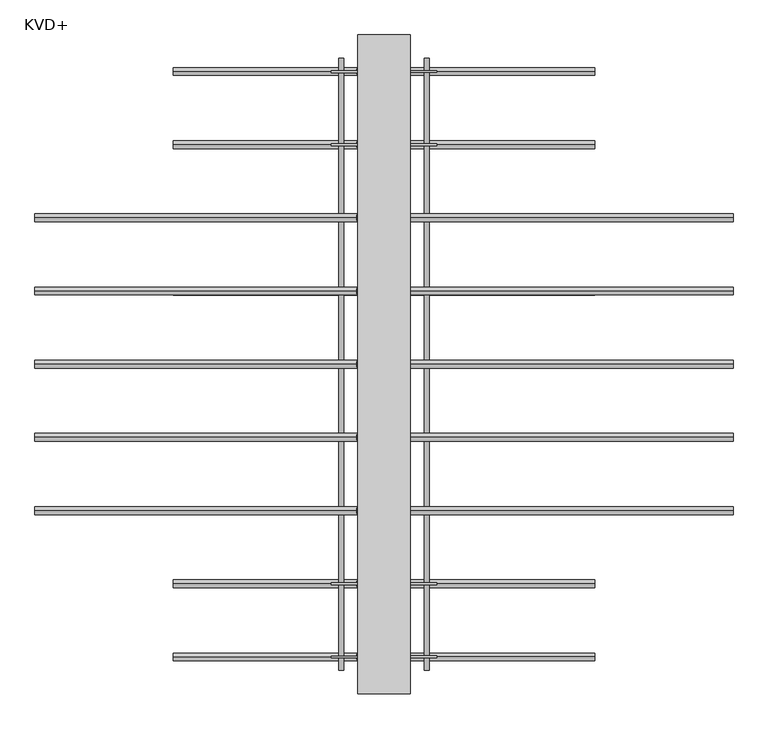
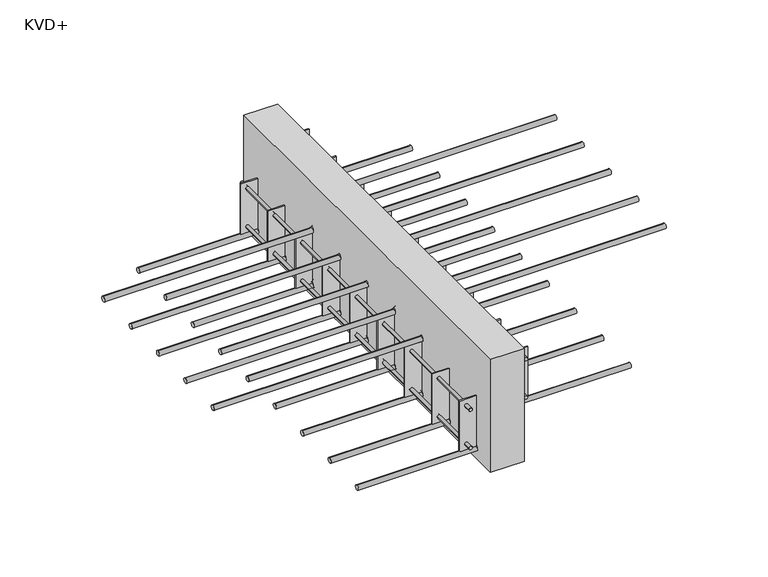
"""IFC4 building model written with IfcOpenShell, lengths in millimetres: proxy geometry, ACINOXplus_Typenreihe_KV : KVD+."""

from ifc_helpers import new_model, si_unit, point, frame, frame_2d, origin, place, context, project, spatial, polyline, circle_curve, ellipse_curve, trimmed, segment, composite_curve, outline, extrude, source, transform, mapped, element, save
from ifc_brep_helpers import plane_surface, cylinder_surface, advanced_brep


def kvd_56752be9(model_context):
    return source(origin(), model_context, "Body", "SolidModel", [
        extrude(outline(polyline([(40.0, 500.0), (40.0, -500.0), (-40.0, -500.0), (-40.0, 500.0), (40.0, 500.0)])), frame((0.0, 0.0, -200.0), z_axis=(0.0, 0.0, 1.0), x_axis=(1.0, 0.0, 0.0)), (0.0, 0.0, 1.0), 280.0),
        extrude(outline(polyline([(-42.0, -40.0), (-42.0, -80.0), (-167.0, -80.0), (-167.0, -40.0), (-87.0, 40.0), (-87.0, 80.0), (38.0, 80.0), (38.0, 40.0), (-42.0, -40.0)])), frame((0.0, 331.8333333, 0.0), z_axis=(0.0, 1.0, 0.0), x_axis=(0.0, 0.0, 1.0)), (0.0, 0.0, 1.0), 3.0),
        extrude(outline(polyline([(-42.0, -40.0), (-42.0, -80.0), (-167.0, -80.0), (-167.0, -40.0), (-87.0, 40.0), (-87.0, 80.0), (38.0, 80.0), (38.0, 40.0), (-42.0, -40.0)])), frame((0.0, 220.7222222, 0.0), z_axis=(0.0, 1.0, 0.0), x_axis=(0.0, 0.0, 1.0)), (0.0, 0.0, 1.0), 3.0),
        extrude(outline(polyline([(-42.0, -40.0), (-42.0, -80.0), (-167.0, -80.0), (-167.0, -40.0), (-87.0, 40.0), (-87.0, 80.0), (38.0, 80.0), (38.0, 40.0), (-42.0, -40.0)])), frame((0.0, 109.6111111, 0.0), z_axis=(0.0, 1.0, 0.0), x_axis=(0.0, 0.0, 1.0)), (0.0, 0.0, 1.0), 3.0),
        extrude(outline(polyline([(-42.0, -40.0), (-42.0, -80.0), (-167.0, -80.0), (-167.0, -40.0), (-87.0, 40.0), (-87.0, 80.0), (38.0, 80.0), (38.0, 40.0), (-42.0, -40.0)])), frame((0.0, -1.5, 0.0), z_axis=(0.0, 1.0, 0.0), x_axis=(0.0, 0.0, 1.0)), (0.0, 0.0, 1.0), 3.0),
        extrude(outline(polyline([(-42.0, -40.0), (-42.0, -80.0), (-167.0, -80.0), (-167.0, -40.0), (-87.0, 40.0), (-87.0, 80.0), (38.0, 80.0), (38.0, 40.0), (-42.0, -40.0)])), frame((0.0, -112.6111111, 0.0), z_axis=(0.0, 1.0, 0.0), x_axis=(0.0, 0.0, 1.0)), (0.0, 0.0, 1.0), 3.0),
        extrude(outline(polyline([(-42.0, -40.0), (-42.0, -80.0), (-167.0, -80.0), (-167.0, -40.0), (-87.0, 40.0), (-87.0, 80.0), (38.0, 80.0), (38.0, 40.0), (-42.0, -40.0)])), frame((0.0, -223.7222222, 0.0), z_axis=(0.0, 1.0, 0.0), x_axis=(0.0, 0.0, 1.0)), (0.0, 0.0, 1.0), 3.0),
        extrude(outline(polyline([(-42.0, -40.0), (-42.0, -80.0), (-167.0, -80.0), (-167.0, -40.0), (-87.0, 40.0), (-87.0, 80.0), (38.0, 80.0), (38.0, 40.0), (-42.0, -40.0)])), frame((0.0, -334.8333333, 0.0), z_axis=(0.0, 1.0, 0.0), x_axis=(0.0, 0.0, 1.0)), (0.0, 0.0, 1.0), 3.0),
        extrude(outline(polyline([(-42.0, -40.0), (-42.0, -80.0), (-167.0, -80.0), (-167.0, -40.0), (-87.0, 40.0), (-87.0, 80.0), (38.0, 80.0), (38.0, 40.0), (-42.0, -40.0)])), frame((0.0, 442.9444444, 0.0), z_axis=(0.0, 1.0, 0.0), x_axis=(0.0, 0.0, 1.0)), (0.0, 0.0, 1.0), 3.0),
        extrude(outline(polyline([(-42.0, -40.0), (-42.0, -80.0), (-167.0, -80.0), (-167.0, -40.0), (-87.0, 40.0), (-87.0, 80.0), (38.0, 80.0), (38.0, 40.0), (-42.0, -40.0)])), frame((0.0, -445.9444444, 0.0), z_axis=(0.0, 1.0, 0.0), x_axis=(0.0, 0.0, 1.0)), (0.0, 0.0, 1.0), 3.0),
        extrude(outline(composite_curve([segment(trimmed(circle_curve(frame_2d((-152.0, -65.0)), 4.0), [point((-152.0, -69.0))], [point((-152.0, -61.0))], False, "CARTESIAN"), True, "CONTINUOUS"), segment(trimmed(circle_curve(frame_2d((-152.0, -65.0)), 4.0), [point((-152.0, -61.0))], [point((-152.0, -69.0))], False, "CARTESIAN"), True, "CONTINUOUS")], self_intersect=False)), frame((0.0, 445.9444444, 0.0), z_axis=(0.0, 1.0, 0.0), x_axis=(0.0, 0.0, 1.0)), (0.0, 0.0, 1.0), 18.5),
        extrude(outline(composite_curve([segment(trimmed(circle_curve(frame_2d((-152.0, -65.0)), 4.0), [point((-152.0, -61.0))], [point((-152.0, -69.0))], False, "CARTESIAN"), True, "CONTINUOUS"), segment(trimmed(circle_curve(frame_2d((-152.0, -65.0)), 4.0), [point((-152.0, -69.0))], [point((-152.0, -61.0))], False, "CARTESIAN"), True, "CONTINUOUS")], self_intersect=False)), frame((0.0, -464.4444444, 0.0), z_axis=(0.0, 1.0, 0.0), x_axis=(0.0, 0.0, 1.0)), (0.0, 0.0, 1.0), 18.5),
        extrude(outline(composite_curve([segment(trimmed(circle_curve(frame_2d((-152.0, -65.0)), 4.0), [point((-152.0, -69.0))], [point((-152.0, -61.0))], False, "CARTESIAN"), True, "CONTINUOUS"), segment(trimmed(circle_curve(frame_2d((-152.0, -65.0)), 4.0), [point((-152.0, -61.0))], [point((-152.0, -69.0))], False, "CARTESIAN"), True, "CONTINUOUS")], self_intersect=False)), frame((0.0, -442.9444444, 0.0), z_axis=(0.0, 1.0, 0.0), x_axis=(0.0, 0.0, 1.0)), (0.0, 0.0, 1.0), 108.1111111),
        extrude(outline(composite_curve([segment(trimmed(circle_curve(frame_2d((-152.0, -65.0)), 4.0), [point((-152.0, -69.0))], [point((-152.0, -61.0))], False, "CARTESIAN"), True, "CONTINUOUS"), segment(trimmed(circle_curve(frame_2d((-152.0, -65.0)), 4.0), [point((-152.0, -61.0))], [point((-152.0, -69.0))], False, "CARTESIAN"), True, "CONTINUOUS")], self_intersect=False)), frame((0.0, -331.8333333, 0.0), z_axis=(0.0, 1.0, 0.0), x_axis=(0.0, 0.0, 1.0)), (0.0, 0.0, 1.0), 774.7777778),
        extrude(outline(composite_curve([segment(trimmed(circle_curve(frame_2d((-72.0, 65.0)), 4.0), [point((-72.0, 61.0))], [point((-72.0, 69.0))], False, "CARTESIAN"), True, "CONTINUOUS"), segment(trimmed(circle_curve(frame_2d((-72.0, 65.0)), 4.0), [point((-72.0, 69.0))], [point((-72.0, 61.0))], False, "CARTESIAN"), True, "CONTINUOUS")], self_intersect=False)), frame((0.0, 445.9444444, 0.0), z_axis=(0.0, 1.0, 0.0), x_axis=(0.0, 0.0, 1.0)), (0.0, 0.0, 1.0), 18.5),
        extrude(outline(composite_curve([segment(trimmed(circle_curve(frame_2d((-72.0, 65.0)), 4.0), [point((-72.0, 69.0))], [point((-72.0, 61.0))], False, "CARTESIAN"), True, "CONTINUOUS"), segment(trimmed(circle_curve(frame_2d((-72.0, 65.0)), 4.0), [point((-72.0, 61.0))], [point((-72.0, 69.0))], False, "CARTESIAN"), True, "CONTINUOUS")], self_intersect=False)), frame((0.0, -464.4444444, 0.0), z_axis=(0.0, 1.0, 0.0), x_axis=(0.0, 0.0, 1.0)), (0.0, 0.0, 1.0), 18.5),
        extrude(outline(composite_curve([segment(trimmed(circle_curve(frame_2d((-72.0, 65.0)), 4.0), [point((-72.0, 61.0))], [point((-72.0, 69.0))], False, "CARTESIAN"), True, "CONTINUOUS"), segment(trimmed(circle_curve(frame_2d((-72.0, 65.0)), 4.0), [point((-72.0, 69.0))], [point((-72.0, 61.0))], False, "CARTESIAN"), True, "CONTINUOUS")], self_intersect=False)), frame((0.0, -331.8333333, 0.0), z_axis=(0.0, 1.0, 0.0), x_axis=(0.0, 0.0, 1.0)), (0.0, 0.0, 1.0), 774.7777778),
        extrude(outline(composite_curve([segment(trimmed(circle_curve(frame_2d((-72.0, 65.0)), 4.0), [point((-72.0, 61.0))], [point((-72.0, 69.0))], False, "CARTESIAN"), True, "CONTINUOUS"), segment(trimmed(circle_curve(frame_2d((-72.0, 65.0)), 4.0), [point((-72.0, 69.0))], [point((-72.0, 61.0))], False, "CARTESIAN"), True, "CONTINUOUS")], self_intersect=False)), frame((0.0, -442.9444444, 0.0), z_axis=(0.0, 1.0, 0.0), x_axis=(0.0, 0.0, 1.0)), (0.0, 0.0, 1.0), 108.1111111),
        extrude(outline(composite_curve([segment(trimmed(circle_curve(frame_2d((-57.0, -65.0)), 4.0), [point((-57.0, -69.0))], [point((-57.0, -61.0))], False, "CARTESIAN"), True, "CONTINUOUS"), segment(trimmed(circle_curve(frame_2d((-57.0, -65.0)), 4.0), [point((-57.0, -61.0))], [point((-57.0, -69.0))], False, "CARTESIAN"), True, "CONTINUOUS")], self_intersect=False)), frame((0.0, 445.9444444, 0.0), z_axis=(0.0, 1.0, 0.0), x_axis=(0.0, 0.0, 1.0)), (0.0, 0.0, 1.0), 18.5),
        extrude(outline(composite_curve([segment(trimmed(circle_curve(frame_2d((-57.0, -65.0)), 4.0), [point((-57.0, -61.0))], [point((-57.0, -69.0))], False, "CARTESIAN"), True, "CONTINUOUS"), segment(trimmed(circle_curve(frame_2d((-57.0, -65.0)), 4.0), [point((-57.0, -69.0))], [point((-57.0, -61.0))], False, "CARTESIAN"), True, "CONTINUOUS")], self_intersect=False)), frame((0.0, -464.4444444, 0.0), z_axis=(0.0, 1.0, 0.0), x_axis=(0.0, 0.0, 1.0)), (0.0, 0.0, 1.0), 18.5),
        extrude(outline(composite_curve([segment(trimmed(circle_curve(frame_2d((-57.0, -65.0)), 4.0), [point((-57.0, -69.0))], [point((-57.0, -61.0))], False, "CARTESIAN"), True, "CONTINUOUS"), segment(trimmed(circle_curve(frame_2d((-57.0, -65.0)), 4.0), [point((-57.0, -61.0))], [point((-57.0, -69.0))], False, "CARTESIAN"), True, "CONTINUOUS")], self_intersect=False)), frame((0.0, -442.9444444, 0.0), z_axis=(0.0, 1.0, 0.0), x_axis=(0.0, 0.0, 1.0)), (0.0, 0.0, 1.0), 108.1111111),
        extrude(outline(composite_curve([segment(trimmed(circle_curve(frame_2d((-57.0, -65.0)), 4.0), [point((-57.0, -69.0))], [point((-57.0, -61.0))], False, "CARTESIAN"), True, "CONTINUOUS"), segment(trimmed(circle_curve(frame_2d((-57.0, -65.0)), 4.0), [point((-57.0, -61.0))], [point((-57.0, -69.0))], False, "CARTESIAN"), True, "CONTINUOUS")], self_intersect=False)), frame((0.0, -331.8333333, 0.0), z_axis=(0.0, 1.0, 0.0), x_axis=(0.0, 0.0, 1.0)), (0.0, 0.0, 1.0), 774.7777778),
        extrude(outline(composite_curve([segment(trimmed(circle_curve(frame_2d((23.0, 65.0)), 4.0), [point((23.0, 61.0))], [point((23.0, 69.0))], False, "CARTESIAN"), True, "CONTINUOUS"), segment(trimmed(circle_curve(frame_2d((23.0, 65.0)), 4.0), [point((23.0, 69.0))], [point((23.0, 61.0))], False, "CARTESIAN"), True, "CONTINUOUS")], self_intersect=False)), frame((0.0, 445.9444444, 0.0), z_axis=(0.0, 1.0, 0.0), x_axis=(0.0, 0.0, 1.0)), (0.0, 0.0, 1.0), 18.5),
        extrude(outline(composite_curve([segment(trimmed(circle_curve(frame_2d((23.0, 65.0)), 4.0), [point((23.0, 69.0))], [point((23.0, 61.0))], False, "CARTESIAN"), True, "CONTINUOUS"), segment(trimmed(circle_curve(frame_2d((23.0, 65.0)), 4.0), [point((23.0, 61.0))], [point((23.0, 69.0))], False, "CARTESIAN"), True, "CONTINUOUS")], self_intersect=False)), frame((0.0, -464.4444444, 0.0), z_axis=(0.0, 1.0, 0.0), x_axis=(0.0, 0.0, 1.0)), (0.0, 0.0, 1.0), 18.5),
        extrude(outline(composite_curve([segment(trimmed(circle_curve(frame_2d((23.0, 65.0)), 4.0), [point((23.0, 61.0))], [point((23.0, 69.0))], False, "CARTESIAN"), True, "CONTINUOUS"), segment(trimmed(circle_curve(frame_2d((23.0, 65.0)), 4.0), [point((23.0, 69.0))], [point((23.0, 61.0))], False, "CARTESIAN"), True, "CONTINUOUS")], self_intersect=False)), frame((0.0, -331.8333333, 0.0), z_axis=(0.0, 1.0, 0.0), x_axis=(0.0, 0.0, 1.0)), (0.0, 0.0, 1.0), 774.7777778),
        extrude(outline(composite_curve([segment(trimmed(circle_curve(frame_2d((23.0, 65.0)), 4.0), [point((23.0, 61.0))], [point((23.0, 69.0))], False, "CARTESIAN"), True, "CONTINUOUS"), segment(trimmed(circle_curve(frame_2d((23.0, 65.0)), 4.0), [point((23.0, 69.0))], [point((23.0, 61.0))], False, "CARTESIAN"), True, "CONTINUOUS")], self_intersect=False)), frame((0.0, -442.9444444, 0.0), z_axis=(0.0, 1.0, 0.0), x_axis=(0.0, 0.0, 1.0)), (0.0, 0.0, 1.0), 108.1111111),
        advanced_brep(
        [(-320.0, 222.2222222, -179.0), (-320.0, 222.2222222, -167.0), (-37.5147186, 222.2222222, -179.0), (-42.4852814, 222.2222222, -167.0), (42.4852814, 222.2222222, -99.0), (37.5147186, 222.2222222, -87.0), (320.0, 222.2222222, -99.0), (320.0, 222.2222222, -87.0)],
        [
            (0, 1, circle_curve(frame((-320.0, 222.2222222, -173.0), z_axis=(-1.0, 0.0, 0.0), x_axis=(0.0, 0.0, 1.0)), 6.0)),
            (1, 0, circle_curve(frame((-320.0, 222.2222222, -173.0), z_axis=(-1.0, 0.0, 0.0), x_axis=(0.0, 0.0, 1.0)), 6.0)),
            (0, 2),
            (2, 3, ellipse_curve(frame((-40.0, 222.2222222, -173.0), z_axis=(-0.9238795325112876, 0.0, -0.382683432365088), x_axis=(-0.3826834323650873, 0.0, 0.923879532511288)), 6.4943532, 6.0)),
            (3, 1),
            (3, 2, ellipse_curve(frame((-40.0, 222.2222222, -173.0), z_axis=(-0.9238795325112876, 0.0, -0.382683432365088), x_axis=(-0.3826834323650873, 0.0, 0.923879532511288)), 6.4943532, 6.0)),
            (2, 4),
            (4, 5, ellipse_curve(frame((40.0, 222.2222222, -93.0), z_axis=(-0.9238795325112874, 0.0, -0.382683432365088), x_axis=(0.3826834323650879, 0.0, -0.9238795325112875)), 6.4943532, 6.0)),
            (5, 3),
            (5, 4, ellipse_curve(frame((40.0, 222.2222222, -93.0), z_axis=(-0.9238795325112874, 0.0, -0.382683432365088), x_axis=(0.3826834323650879, 0.0, -0.9238795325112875)), 6.4943532, 6.0)),
            (6, 7, circle_curve(frame((320.0, 222.2222222, -93.0), z_axis=(1.0, 0.0, 0.0), x_axis=(0.0, 0.0, 1.0)), 6.0)),
            (7, 6, circle_curve(frame((320.0, 222.2222222, -93.0), z_axis=(1.0, 0.0, 0.0), x_axis=(0.0, 0.0, 1.0)), 6.0)),
            (4, 6),
            (7, 5),
        ],
        [
            plane_surface(frame((-320.0, 222.2222222, -173.0), z_axis=(-1.0, 0.0, 0.0), x_axis=(0.0, -1.0, 0.0))),
            cylinder_surface(frame((-320.0, 222.2222222, -173.0), z_axis=(-1.0, 0.0, 0.0), x_axis=(0.0, 0.0, 1.0)), 6.0),
            cylinder_surface(frame((-40.0, 222.2222222, -173.0), z_axis=(-0.707106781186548, 0.0, -0.707106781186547), x_axis=(-0.707106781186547, 0.0, 0.707106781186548)), 6.0),
            plane_surface(frame((320.0, 222.2222222, -93.0), z_axis=(1.0, 0.0, 0.0), x_axis=(0.0, -1.0, 0.0))),
            cylinder_surface(frame((40.0, 222.2222222, -93.0), z_axis=(-1.0, 0.0, 0.0), x_axis=(0.0, 0.0, 1.0)), 6.0),
        ],
        [
            (0, [[1, 2]]),
            (1, [[-1, 3, 4, 5]]),
            (1, [[-2, -5, 6, -3]]),
            (2, [[-4, 7, 8, 9]]),
            (2, [[-6, -9, 10, -7]]),
            (3, [[11, 12]]),
            (4, [[-8, 13, -12, 14]]),
            (4, [[-10, -14, -11, -13]]),
        ],
    ),
        advanced_brep(
        [(-320.0, 111.1111111, -179.0), (-320.0, 111.1111111, -167.0), (-37.5147186, 111.1111111, -179.0), (-42.4852814, 111.1111111, -167.0), (42.4852814, 111.1111111, -99.0), (37.5147186, 111.1111111, -87.0), (320.0, 111.1111111, -99.0), (320.0, 111.1111111, -87.0)],
        [
            (0, 1, circle_curve(frame((-320.0, 111.1111111, -173.0), z_axis=(-1.0, 0.0, 0.0), x_axis=(0.0, 0.0, 1.0)), 6.0)),
            (1, 0, circle_curve(frame((-320.0, 111.1111111, -173.0), z_axis=(-1.0, 0.0, 0.0), x_axis=(0.0, 0.0, 1.0)), 6.0)),
            (0, 2),
            (2, 3, ellipse_curve(frame((-40.0, 111.1111111, -173.0), z_axis=(-0.9238795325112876, 0.0, -0.382683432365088), x_axis=(-0.3826834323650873, 0.0, 0.923879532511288)), 6.4943532, 6.0)),
            (3, 1),
            (3, 2, ellipse_curve(frame((-40.0, 111.1111111, -173.0), z_axis=(-0.9238795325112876, 0.0, -0.382683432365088), x_axis=(-0.3826834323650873, 0.0, 0.923879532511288)), 6.4943532, 6.0)),
            (2, 4),
            (4, 5, ellipse_curve(frame((40.0, 111.1111111, -93.0), z_axis=(-0.9238795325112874, 0.0, -0.382683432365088), x_axis=(0.3826834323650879, 0.0, -0.9238795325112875)), 6.4943532, 6.0)),
            (5, 3),
            (5, 4, ellipse_curve(frame((40.0, 111.1111111, -93.0), z_axis=(-0.9238795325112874, 0.0, -0.382683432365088), x_axis=(0.3826834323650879, 0.0, -0.9238795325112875)), 6.4943532, 6.0)),
            (6, 7, circle_curve(frame((320.0, 111.1111111, -93.0), z_axis=(1.0, 0.0, 0.0), x_axis=(0.0, 0.0, 1.0)), 6.0)),
            (7, 6, circle_curve(frame((320.0, 111.1111111, -93.0), z_axis=(1.0, 0.0, 0.0), x_axis=(0.0, 0.0, 1.0)), 6.0)),
            (4, 6),
            (7, 5),
        ],
        [
            plane_surface(frame((-320.0, 111.1111111, -173.0), z_axis=(-1.0, 0.0, 0.0), x_axis=(0.0, -1.0, 0.0))),
            cylinder_surface(frame((-320.0, 111.1111111, -173.0), z_axis=(-1.0, 0.0, 0.0), x_axis=(0.0, 0.0, 1.0)), 6.0),
            cylinder_surface(frame((-40.0, 111.1111111, -173.0), z_axis=(-0.707106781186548, 0.0, -0.707106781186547), x_axis=(-0.707106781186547, 0.0, 0.707106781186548)), 6.0),
            plane_surface(frame((320.0, 111.1111111, -93.0), z_axis=(1.0, 0.0, 0.0), x_axis=(0.0, -1.0, 0.0))),
            cylinder_surface(frame((40.0, 111.1111111, -93.0), z_axis=(-1.0, 0.0, 0.0), x_axis=(0.0, 0.0, 1.0)), 6.0),
        ],
        [
            (0, [[1, 2]]),
            (1, [[-1, 3, 4, 5]]),
            (1, [[-2, -5, 6, -3]]),
            (2, [[-4, 7, 8, 9]]),
            (2, [[-6, -9, 10, -7]]),
            (3, [[11, 12]]),
            (4, [[-8, 13, -12, 14]]),
            (4, [[-10, -14, -11, -13]]),
        ],
    ),
        advanced_brep(
        [(-320.0, 0.0, -179.0), (-320.0, 0.0, -167.0), (-37.5147186, 0.0, -179.0), (-42.4852814, 0.0, -167.0), (42.4852814, 0.0, -99.0), (37.5147186, 0.0, -87.0), (320.0, 0.0, -99.0), (320.0, 0.0, -87.0)],
        [
            (0, 1, circle_curve(frame((-320.0, 0.0, -173.0), z_axis=(-1.0, 0.0, 0.0), x_axis=(0.0, 0.0, 1.0)), 6.0)),
            (1, 0, circle_curve(frame((-320.0, 0.0, -173.0), z_axis=(-1.0, 0.0, 0.0), x_axis=(0.0, 0.0, 1.0)), 6.0)),
            (0, 2),
            (2, 3, ellipse_curve(frame((-40.0, 0.0, -173.0), z_axis=(-0.9238795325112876, 0.0, -0.382683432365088), x_axis=(-0.3826834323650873, 0.0, 0.923879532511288)), 6.4943532, 6.0)),
            (3, 1),
            (3, 2, ellipse_curve(frame((-40.0, 0.0, -173.0), z_axis=(-0.9238795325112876, 0.0, -0.382683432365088), x_axis=(-0.3826834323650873, 0.0, 0.923879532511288)), 6.4943532, 6.0)),
            (2, 4),
            (4, 5, ellipse_curve(frame((40.0, 0.0, -93.0), z_axis=(-0.9238795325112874, 0.0, -0.382683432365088), x_axis=(0.3826834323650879, 0.0, -0.9238795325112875)), 6.4943532, 6.0)),
            (5, 3),
            (5, 4, ellipse_curve(frame((40.0, 0.0, -93.0), z_axis=(-0.9238795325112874, 0.0, -0.382683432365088), x_axis=(0.3826834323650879, 0.0, -0.9238795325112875)), 6.4943532, 6.0)),
            (6, 7, circle_curve(frame((320.0, 0.0, -93.0), z_axis=(1.0, 0.0, 0.0), x_axis=(0.0, 0.0, 1.0)), 6.0)),
            (7, 6, circle_curve(frame((320.0, 0.0, -93.0), z_axis=(1.0, 0.0, 0.0), x_axis=(0.0, 0.0, 1.0)), 6.0)),
            (4, 6),
            (7, 5),
        ],
        [
            plane_surface(frame((-320.0, 0.0, -173.0), z_axis=(-1.0, 0.0, 0.0), x_axis=(0.0, -1.0, 0.0))),
            cylinder_surface(frame((-320.0, 0.0, -173.0), z_axis=(-1.0, 0.0, 0.0), x_axis=(0.0, 0.0, 1.0)), 6.0),
            cylinder_surface(frame((-40.0, 0.0, -173.0), z_axis=(-0.707106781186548, 0.0, -0.707106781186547), x_axis=(-0.707106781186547, 0.0, 0.707106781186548)), 6.0),
            plane_surface(frame((320.0, 0.0, -93.0), z_axis=(1.0, 0.0, 0.0), x_axis=(0.0, -1.0, 0.0))),
            cylinder_surface(frame((40.0, 0.0, -93.0), z_axis=(-1.0, 0.0, 0.0), x_axis=(0.0, 0.0, 1.0)), 6.0),
        ],
        [
            (0, [[1, 2]]),
            (1, [[-1, 3, 4, 5]]),
            (1, [[-2, -5, 6, -3]]),
            (2, [[-4, 7, 8, 9]]),
            (2, [[-6, -9, 10, -7]]),
            (3, [[11, 12]]),
            (4, [[-8, 13, -12, 14]]),
            (4, [[-10, -14, -11, -13]]),
        ],
    ),
        advanced_brep(
        [(-320.0, -111.1111111, -179.0), (-320.0, -111.1111111, -167.0), (-37.5147186, -111.1111111, -179.0), (-42.4852814, -111.1111111, -167.0), (42.4852814, -111.1111111, -99.0), (37.5147186, -111.1111111, -87.0), (320.0, -111.1111111, -99.0), (320.0, -111.1111111, -87.0)],
        [
            (0, 1, circle_curve(frame((-320.0, -111.1111111, -173.0), z_axis=(-1.0, 0.0, 0.0), x_axis=(0.0, 0.0, 1.0)), 6.0)),
            (1, 0, circle_curve(frame((-320.0, -111.1111111, -173.0), z_axis=(-1.0, 0.0, 0.0), x_axis=(0.0, 0.0, 1.0)), 6.0)),
            (0, 2),
            (2, 3, ellipse_curve(frame((-40.0, -111.1111111, -173.0), z_axis=(-0.9238795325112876, 0.0, -0.382683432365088), x_axis=(-0.3826834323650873, 0.0, 0.923879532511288)), 6.4943532, 6.0)),
            (3, 1),
            (3, 2, ellipse_curve(frame((-40.0, -111.1111111, -173.0), z_axis=(-0.9238795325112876, 0.0, -0.382683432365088), x_axis=(-0.3826834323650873, 0.0, 0.923879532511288)), 6.4943532, 6.0)),
            (2, 4),
            (4, 5, ellipse_curve(frame((40.0, -111.1111111, -93.0), z_axis=(-0.9238795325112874, 0.0, -0.382683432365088), x_axis=(0.3826834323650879, 0.0, -0.9238795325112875)), 6.4943532, 6.0)),
            (5, 3),
            (5, 4, ellipse_curve(frame((40.0, -111.1111111, -93.0), z_axis=(-0.9238795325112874, 0.0, -0.382683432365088), x_axis=(0.3826834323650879, 0.0, -0.9238795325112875)), 6.4943532, 6.0)),
            (6, 7, circle_curve(frame((320.0, -111.1111111, -93.0), z_axis=(1.0, 0.0, 0.0), x_axis=(0.0, 0.0, 1.0)), 6.0)),
            (7, 6, circle_curve(frame((320.0, -111.1111111, -93.0), z_axis=(1.0, 0.0, 0.0), x_axis=(0.0, 0.0, 1.0)), 6.0)),
            (4, 6),
            (7, 5),
        ],
        [
            plane_surface(frame((-320.0, -111.1111111, -173.0), z_axis=(-1.0, 0.0, 0.0), x_axis=(0.0, -1.0, 0.0))),
            cylinder_surface(frame((-320.0, -111.1111111, -173.0), z_axis=(-1.0, 0.0, 0.0), x_axis=(0.0, 0.0, 1.0)), 6.0),
            cylinder_surface(frame((-40.0, -111.1111111, -173.0), z_axis=(-0.707106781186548, 0.0, -0.707106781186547), x_axis=(-0.707106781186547, 0.0, 0.707106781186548)), 6.0),
            plane_surface(frame((320.0, -111.1111111, -93.0), z_axis=(1.0, 0.0, 0.0), x_axis=(0.0, -1.0, 0.0))),
            cylinder_surface(frame((40.0, -111.1111111, -93.0), z_axis=(-1.0, 0.0, 0.0), x_axis=(0.0, 0.0, 1.0)), 6.0),
        ],
        [
            (0, [[1, 2]]),
            (1, [[-1, 3, 4, 5]]),
            (1, [[-2, -5, 6, -3]]),
            (2, [[-4, 7, 8, 9]]),
            (2, [[-6, -9, 10, -7]]),
            (3, [[11, 12]]),
            (4, [[-8, 13, -12, 14]]),
            (4, [[-10, -14, -11, -13]]),
        ],
    ),
        advanced_brep(
        [(-320.0, -222.2222222, -179.0), (-320.0, -222.2222222, -167.0), (-37.5147186, -222.2222222, -179.0), (-42.4852814, -222.2222222, -167.0), (42.4852814, -222.2222222, -99.0), (37.5147186, -222.2222222, -87.0), (320.0, -222.2222222, -99.0), (320.0, -222.2222222, -87.0)],
        [
            (0, 1, circle_curve(frame((-320.0, -222.2222222, -173.0), z_axis=(-1.0, 0.0, 0.0), x_axis=(0.0, 0.0, 1.0)), 6.0)),
            (1, 0, circle_curve(frame((-320.0, -222.2222222, -173.0), z_axis=(-1.0, 0.0, 0.0), x_axis=(0.0, 0.0, 1.0)), 6.0)),
            (0, 2),
            (2, 3, ellipse_curve(frame((-40.0, -222.2222222, -173.0), z_axis=(-0.9238795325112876, 0.0, -0.382683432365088), x_axis=(-0.3826834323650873, 0.0, 0.923879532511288)), 6.4943532, 6.0)),
            (3, 1),
            (3, 2, ellipse_curve(frame((-40.0, -222.2222222, -173.0), z_axis=(-0.9238795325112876, 0.0, -0.382683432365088), x_axis=(-0.3826834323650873, 0.0, 0.923879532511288)), 6.4943532, 6.0)),
            (2, 4),
            (4, 5, ellipse_curve(frame((40.0, -222.2222222, -93.0), z_axis=(-0.9238795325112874, 0.0, -0.382683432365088), x_axis=(0.3826834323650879, 0.0, -0.9238795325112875)), 6.4943532, 6.0)),
            (5, 3),
            (5, 4, ellipse_curve(frame((40.0, -222.2222222, -93.0), z_axis=(-0.9238795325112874, 0.0, -0.382683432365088), x_axis=(0.3826834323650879, 0.0, -0.9238795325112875)), 6.4943532, 6.0)),
            (6, 7, circle_curve(frame((320.0, -222.2222222, -93.0), z_axis=(1.0, 0.0, 0.0), x_axis=(0.0, 0.0, 1.0)), 6.0)),
            (7, 6, circle_curve(frame((320.0, -222.2222222, -93.0), z_axis=(1.0, 0.0, 0.0), x_axis=(0.0, 0.0, 1.0)), 6.0)),
            (4, 6),
            (7, 5),
        ],
        [
            plane_surface(frame((-320.0, -222.2222222, -173.0), z_axis=(-1.0, 0.0, 0.0), x_axis=(0.0, -1.0, 0.0))),
            cylinder_surface(frame((-320.0, -222.2222222, -173.0), z_axis=(-1.0, 0.0, 0.0), x_axis=(0.0, 0.0, 1.0)), 6.0),
            cylinder_surface(frame((-40.0, -222.2222222, -173.0), z_axis=(-0.707106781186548, 0.0, -0.707106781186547), x_axis=(-0.707106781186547, 0.0, 0.707106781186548)), 6.0),
            plane_surface(frame((320.0, -222.2222222, -93.0), z_axis=(1.0, 0.0, 0.0), x_axis=(0.0, -1.0, 0.0))),
            cylinder_surface(frame((40.0, -222.2222222, -93.0), z_axis=(-1.0, 0.0, 0.0), x_axis=(0.0, 0.0, 1.0)), 6.0),
        ],
        [
            (0, [[1, 2]]),
            (1, [[-1, 3, 4, 5]]),
            (1, [[-2, -5, 6, -3]]),
            (2, [[-4, 7, 8, 9]]),
            (2, [[-6, -9, 10, -7]]),
            (3, [[11, 12]]),
            (4, [[-8, 13, -12, 14]]),
            (4, [[-10, -14, -11, -13]]),
        ],
    ),
        advanced_brep(
        [(-320.0, 333.3333333, -179.0), (-320.0, 333.3333333, -167.0), (-37.5147186, 333.3333333, -179.0), (-42.4852814, 333.3333333, -167.0), (42.4852814, 333.3333333, -99.0), (37.5147186, 333.3333333, -87.0), (320.0, 333.3333333, -99.0), (320.0, 333.3333333, -87.0)],
        [
            (0, 1, circle_curve(frame((-320.0, 333.3333333, -173.0), z_axis=(-1.0, 0.0, 0.0), x_axis=(0.0, 0.0, 1.0)), 6.0)),
            (1, 0, circle_curve(frame((-320.0, 333.3333333, -173.0), z_axis=(-1.0, 0.0, 0.0), x_axis=(0.0, 0.0, 1.0)), 6.0)),
            (0, 2),
            (2, 3, ellipse_curve(frame((-40.0, 333.3333333, -173.0), z_axis=(-0.9238795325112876, 0.0, -0.382683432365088), x_axis=(-0.3826834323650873, 0.0, 0.923879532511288)), 6.4943532, 6.0)),
            (3, 1),
            (3, 2, ellipse_curve(frame((-40.0, 333.3333333, -173.0), z_axis=(-0.9238795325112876, 0.0, -0.382683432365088), x_axis=(-0.3826834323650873, 0.0, 0.923879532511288)), 6.4943532, 6.0)),
            (2, 4),
            (4, 5, ellipse_curve(frame((40.0, 333.3333333, -93.0), z_axis=(-0.9238795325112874, 0.0, -0.382683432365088), x_axis=(0.3826834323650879, 0.0, -0.9238795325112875)), 6.4943532, 6.0)),
            (5, 3),
            (5, 4, ellipse_curve(frame((40.0, 333.3333333, -93.0), z_axis=(-0.9238795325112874, 0.0, -0.382683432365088), x_axis=(0.3826834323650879, 0.0, -0.9238795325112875)), 6.4943532, 6.0)),
            (6, 7, circle_curve(frame((320.0, 333.3333333, -93.0), z_axis=(1.0, 0.0, 0.0), x_axis=(0.0, 0.0, 1.0)), 6.0)),
            (7, 6, circle_curve(frame((320.0, 333.3333333, -93.0), z_axis=(1.0, 0.0, 0.0), x_axis=(0.0, 0.0, 1.0)), 6.0)),
            (4, 6),
            (7, 5),
        ],
        [
            plane_surface(frame((-320.0, 333.3333333, -173.0), z_axis=(-1.0, 0.0, 0.0), x_axis=(0.0, -1.0, 0.0))),
            cylinder_surface(frame((-320.0, 333.3333333, -173.0), z_axis=(-1.0, 0.0, 0.0), x_axis=(0.0, 0.0, 1.0)), 6.0),
            cylinder_surface(frame((-40.0, 333.3333333, -173.0), z_axis=(-0.707106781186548, 0.0, -0.707106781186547), x_axis=(-0.707106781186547, 0.0, 0.707106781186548)), 6.0),
            plane_surface(frame((320.0, 333.3333333, -93.0), z_axis=(1.0, 0.0, 0.0), x_axis=(0.0, -1.0, 0.0))),
            cylinder_surface(frame((40.0, 333.3333333, -93.0), z_axis=(-1.0, 0.0, 0.0), x_axis=(0.0, 0.0, 1.0)), 6.0),
        ],
        [
            (0, [[1, 2]]),
            (1, [[-1, 3, 4, 5]]),
            (1, [[-2, -5, 6, -3]]),
            (2, [[-4, 7, 8, 9]]),
            (2, [[-6, -9, 10, -7]]),
            (3, [[11, 12]]),
            (4, [[-8, 13, -12, 14]]),
            (4, [[-10, -14, -11, -13]]),
        ],
    ),
        advanced_brep(
        [(-320.0, 444.4444444, -179.0), (-320.0, 444.4444444, -167.0), (-37.5147186, 444.4444444, -179.0), (-42.4852814, 444.4444444, -167.0), (42.4852814, 444.4444444, -99.0), (37.5147186, 444.4444444, -87.0), (320.0, 444.4444444, -99.0), (320.0, 444.4444444, -87.0)],
        [
            (0, 1, circle_curve(frame((-320.0, 444.4444444, -173.0), z_axis=(-1.0, 0.0, 0.0), x_axis=(0.0, 0.0, 1.0)), 6.0)),
            (1, 0, circle_curve(frame((-320.0, 444.4444444, -173.0), z_axis=(-1.0, 0.0, 0.0), x_axis=(0.0, 0.0, 1.0)), 6.0)),
            (0, 2),
            (2, 3, ellipse_curve(frame((-40.0, 444.4444444, -173.0), z_axis=(-0.9238795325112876, 0.0, -0.382683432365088), x_axis=(-0.3826834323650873, 0.0, 0.923879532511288)), 6.4943532, 6.0)),
            (3, 1),
            (3, 2, ellipse_curve(frame((-40.0, 444.4444444, -173.0), z_axis=(-0.9238795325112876, 0.0, -0.382683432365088), x_axis=(-0.3826834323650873, 0.0, 0.923879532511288)), 6.4943532, 6.0)),
            (2, 4),
            (4, 5, ellipse_curve(frame((40.0, 444.4444444, -93.0), z_axis=(-0.9238795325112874, 0.0, -0.382683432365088), x_axis=(0.3826834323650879, 0.0, -0.9238795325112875)), 6.4943532, 6.0)),
            (5, 3),
            (5, 4, ellipse_curve(frame((40.0, 444.4444444, -93.0), z_axis=(-0.9238795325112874, 0.0, -0.382683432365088), x_axis=(0.3826834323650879, 0.0, -0.9238795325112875)), 6.4943532, 6.0)),
            (6, 7, circle_curve(frame((320.0, 444.4444444, -93.0), z_axis=(1.0, 0.0, 0.0), x_axis=(0.0, 0.0, 1.0)), 6.0)),
            (7, 6, circle_curve(frame((320.0, 444.4444444, -93.0), z_axis=(1.0, 0.0, 0.0), x_axis=(0.0, 0.0, 1.0)), 6.0)),
            (4, 6),
            (7, 5),
        ],
        [
            plane_surface(frame((-320.0, 444.4444444, -173.0), z_axis=(-1.0, 0.0, 0.0), x_axis=(0.0, -1.0, 0.0))),
            cylinder_surface(frame((-320.0, 444.4444444, -173.0), z_axis=(-1.0, 0.0, 0.0), x_axis=(0.0, 0.0, 1.0)), 6.0),
            cylinder_surface(frame((-40.0, 444.4444444, -173.0), z_axis=(-0.707106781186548, 0.0, -0.707106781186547), x_axis=(-0.707106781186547, 0.0, 0.707106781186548)), 6.0),
            plane_surface(frame((320.0, 444.4444444, -93.0), z_axis=(1.0, 0.0, 0.0), x_axis=(0.0, -1.0, 0.0))),
            cylinder_surface(frame((40.0, 444.4444444, -93.0), z_axis=(-1.0, 0.0, 0.0), x_axis=(0.0, 0.0, 1.0)), 6.0),
        ],
        [
            (0, [[1, 2]]),
            (1, [[-1, 3, 4, 5]]),
            (1, [[-2, -5, 6, -3]]),
            (2, [[-4, 7, 8, 9]]),
            (2, [[-6, -9, 10, -7]]),
            (3, [[11, 12]]),
            (4, [[-8, 13, -12, 14]]),
            (4, [[-10, -14, -11, -13]]),
        ],
    ),
        advanced_brep(
        [(-320.0, -333.3333333, -179.0), (-320.0, -333.3333333, -167.0), (-37.5147186, -333.3333333, -179.0), (-42.4852814, -333.3333333, -167.0), (42.4852814, -333.3333333, -99.0), (37.5147186, -333.3333333, -87.0), (320.0, -333.3333333, -99.0), (320.0, -333.3333333, -87.0)],
        [
            (0, 1, circle_curve(frame((-320.0, -333.3333333, -173.0), z_axis=(-1.0, 0.0, 0.0), x_axis=(0.0, 0.0, 1.0)), 6.0)),
            (1, 0, circle_curve(frame((-320.0, -333.3333333, -173.0), z_axis=(-1.0, 0.0, 0.0), x_axis=(0.0, 0.0, 1.0)), 6.0)),
            (0, 2),
            (2, 3, ellipse_curve(frame((-40.0, -333.3333333, -173.0), z_axis=(-0.9238795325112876, 0.0, -0.382683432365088), x_axis=(-0.3826834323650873, 0.0, 0.923879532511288)), 6.4943532, 6.0)),
            (3, 1),
            (3, 2, ellipse_curve(frame((-40.0, -333.3333333, -173.0), z_axis=(-0.9238795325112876, 0.0, -0.382683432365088), x_axis=(-0.3826834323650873, 0.0, 0.923879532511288)), 6.4943532, 6.0)),
            (2, 4),
            (4, 5, ellipse_curve(frame((40.0, -333.3333333, -93.0), z_axis=(-0.9238795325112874, 0.0, -0.382683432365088), x_axis=(0.3826834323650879, 0.0, -0.9238795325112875)), 6.4943532, 6.0)),
            (5, 3),
            (5, 4, ellipse_curve(frame((40.0, -333.3333333, -93.0), z_axis=(-0.9238795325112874, 0.0, -0.382683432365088), x_axis=(0.3826834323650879, 0.0, -0.9238795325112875)), 6.4943532, 6.0)),
            (6, 7, circle_curve(frame((320.0, -333.3333333, -93.0), z_axis=(1.0, 0.0, 0.0), x_axis=(0.0, 0.0, 1.0)), 6.0)),
            (7, 6, circle_curve(frame((320.0, -333.3333333, -93.0), z_axis=(1.0, 0.0, 0.0), x_axis=(0.0, 0.0, 1.0)), 6.0)),
            (4, 6),
            (7, 5),
        ],
        [
            plane_surface(frame((-320.0, -333.3333333, -173.0), z_axis=(-1.0, 0.0, 0.0), x_axis=(0.0, -1.0, 0.0))),
            cylinder_surface(frame((-320.0, -333.3333333, -173.0), z_axis=(-1.0, 0.0, 0.0), x_axis=(0.0, 0.0, 1.0)), 6.0),
            cylinder_surface(frame((-40.0, -333.3333333, -173.0), z_axis=(-0.707106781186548, 0.0, -0.707106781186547), x_axis=(-0.707106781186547, 0.0, 0.707106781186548)), 6.0),
            plane_surface(frame((320.0, -333.3333333, -93.0), z_axis=(1.0, 0.0, 0.0), x_axis=(0.0, -1.0, 0.0))),
            cylinder_surface(frame((40.0, -333.3333333, -93.0), z_axis=(-1.0, 0.0, 0.0), x_axis=(0.0, 0.0, 1.0)), 6.0),
        ],
        [
            (0, [[1, 2]]),
            (1, [[-1, 3, 4, 5]]),
            (1, [[-2, -5, 6, -3]]),
            (2, [[-4, 7, 8, 9]]),
            (2, [[-6, -9, 10, -7]]),
            (3, [[11, 12]]),
            (4, [[-8, 13, -12, 14]]),
            (4, [[-10, -14, -11, -13]]),
        ],
    ),
        advanced_brep(
        [(-320.0, -444.4444444, -179.0), (-320.0, -444.4444444, -167.0), (-37.5147186, -444.4444444, -179.0), (-42.4852814, -444.4444444, -167.0), (42.4852814, -444.4444444, -99.0), (37.5147186, -444.4444444, -87.0), (320.0, -444.4444444, -99.0), (320.0, -444.4444444, -87.0)],
        [
            (0, 1, circle_curve(frame((-320.0, -444.4444444, -173.0), z_axis=(-1.0, 0.0, 0.0), x_axis=(0.0, 0.0, 1.0)), 6.0)),
            (1, 0, circle_curve(frame((-320.0, -444.4444444, -173.0), z_axis=(-1.0, 0.0, 0.0), x_axis=(0.0, 0.0, 1.0)), 6.0)),
            (0, 2),
            (2, 3, ellipse_curve(frame((-40.0, -444.4444444, -173.0), z_axis=(-0.9238795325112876, 0.0, -0.382683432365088), x_axis=(-0.3826834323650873, 0.0, 0.923879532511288)), 6.4943532, 6.0)),
            (3, 1),
            (3, 2, ellipse_curve(frame((-40.0, -444.4444444, -173.0), z_axis=(-0.9238795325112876, 0.0, -0.382683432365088), x_axis=(-0.3826834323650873, 0.0, 0.923879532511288)), 6.4943532, 6.0)),
            (2, 4),
            (4, 5, ellipse_curve(frame((40.0, -444.4444444, -93.0), z_axis=(-0.9238795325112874, 0.0, -0.382683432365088), x_axis=(0.3826834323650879, 0.0, -0.9238795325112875)), 6.4943532, 6.0)),
            (5, 3),
            (5, 4, ellipse_curve(frame((40.0, -444.4444444, -93.0), z_axis=(-0.9238795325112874, 0.0, -0.382683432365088), x_axis=(0.3826834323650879, 0.0, -0.9238795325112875)), 6.4943532, 6.0)),
            (6, 7, circle_curve(frame((320.0, -444.4444444, -93.0), z_axis=(1.0, 0.0, 0.0), x_axis=(0.0, 0.0, 1.0)), 6.0)),
            (7, 6, circle_curve(frame((320.0, -444.4444444, -93.0), z_axis=(1.0, 0.0, 0.0), x_axis=(0.0, 0.0, 1.0)), 6.0)),
            (4, 6),
            (7, 5),
        ],
        [
            plane_surface(frame((-320.0, -444.4444444, -173.0), z_axis=(-1.0, 0.0, 0.0), x_axis=(0.0, -1.0, 0.0))),
            cylinder_surface(frame((-320.0, -444.4444444, -173.0), z_axis=(-1.0, 0.0, 0.0), x_axis=(0.0, 0.0, 1.0)), 6.0),
            cylinder_surface(frame((-40.0, -444.4444444, -173.0), z_axis=(-0.707106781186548, 0.0, -0.707106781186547), x_axis=(-0.707106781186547, 0.0, 0.707106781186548)), 6.0),
            plane_surface(frame((320.0, -444.4444444, -93.0), z_axis=(1.0, 0.0, 0.0), x_axis=(0.0, -1.0, 0.0))),
            cylinder_surface(frame((40.0, -444.4444444, -93.0), z_axis=(-1.0, 0.0, 0.0), x_axis=(0.0, 0.0, 1.0)), 6.0),
        ],
        [
            (0, [[1, 2]]),
            (1, [[-1, 3, 4, 5]]),
            (1, [[-2, -5, 6, -3]]),
            (2, [[-4, 7, 8, 9]]),
            (2, [[-6, -9, 10, -7]]),
            (3, [[11, 12]]),
            (4, [[-8, 13, -12, 14]]),
            (4, [[-10, -14, -11, -13]]),
        ],
    ),
        advanced_brep(
        [(-530.0, 222.2222222, -42.0), (-530.0, 222.2222222, -30.0), (-37.5147186, 222.2222222, -42.0), (-42.4852814, 222.2222222, -30.0), (530.0, 222.2222222, 38.0), (530.0, 222.2222222, 50.0), (37.5147186, 222.2222222, 50.0), (42.4852814, 222.2222222, 38.0)],
        [
            (0, 1, circle_curve(frame((-530.0, 222.2222222, -36.0), z_axis=(-1.0, 0.0, 0.0), x_axis=(0.0, 0.0, 1.0)), 6.0)),
            (1, 0, circle_curve(frame((-530.0, 222.2222222, -36.0), z_axis=(-1.0, 0.0, 0.0), x_axis=(0.0, 0.0, 1.0)), 6.0)),
            (0, 2),
            (2, 3, ellipse_curve(frame((-40.0, 222.2222222, -36.0), z_axis=(-0.923879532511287, 0.0, -0.38268343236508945), x_axis=(-0.38268343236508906, 0.0, 0.9238795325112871)), 6.4943532, 6.0)),
            (3, 1),
            (3, 2, ellipse_curve(frame((-40.0, 222.2222222, -36.0), z_axis=(-0.923879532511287, 0.0, -0.38268343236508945), x_axis=(-0.38268343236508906, 0.0, 0.9238795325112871)), 6.4943532, 6.0)),
            (4, 5, circle_curve(frame((530.0, 222.2222222, 44.0), z_axis=(1.0, 0.0, 0.0), x_axis=(0.0, 0.0, 1.0)), 6.0)),
            (5, 4, circle_curve(frame((530.0, 222.2222222, 44.0), z_axis=(1.0, 0.0, 0.0), x_axis=(0.0, 0.0, 1.0)), 6.0)),
            (6, 7, ellipse_curve(frame((40.0, 222.2222222, 44.0), z_axis=(0.923879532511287, 0.0, 0.38268343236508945), x_axis=(-0.38268343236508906, 0.0, 0.9238795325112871)), 6.4943532, 6.0)),
            (7, 4),
            (5, 6),
            (7, 6, ellipse_curve(frame((40.0, 222.2222222, 44.0), z_axis=(0.923879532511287, 0.0, 0.38268343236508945), x_axis=(-0.38268343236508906, 0.0, 0.9238795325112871)), 6.4943532, 6.0)),
            (2, 7),
            (6, 3),
        ],
        [
            plane_surface(frame((-530.0, 222.2222222, -36.0), z_axis=(-1.0, 0.0, 0.0), x_axis=(0.0, -1.0, 0.0))),
            cylinder_surface(frame((-530.0, 222.2222222, -36.0), z_axis=(-1.0, 0.0, 0.0), x_axis=(0.0, 0.0, 1.0)), 6.0),
            plane_surface(frame((530.0, 222.2222222, 44.0), z_axis=(1.0, 0.0, 0.0), x_axis=(0.0, -1.0, 0.0))),
            cylinder_surface(frame((40.0, 222.2222222, 44.0), z_axis=(-1.0, 0.0, 0.0), x_axis=(0.0, 0.0, 1.0)), 6.0),
            cylinder_surface(frame((-40.0, 222.2222222, -36.0), z_axis=(-0.7071067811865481, 0.0, -0.707106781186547), x_axis=(-0.707106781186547, 0.0, 0.7071067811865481)), 6.0),
        ],
        [
            (0, [[1, 2]]),
            (1, [[-1, 3, 4, 5]]),
            (1, [[-2, -5, 6, -3]]),
            (2, [[7, 8]]),
            (3, [[9, 10, -8, 11]]),
            (3, [[12, -11, -7, -10]]),
            (4, [[-4, 13, -9, 14]]),
            (4, [[-6, -14, -12, -13]]),
        ],
    ),
        advanced_brep(
        [(-530.0, 111.1111111, -42.0), (-530.0, 111.1111111, -30.0), (-37.5147186, 111.1111111, -42.0), (-42.4852814, 111.1111111, -30.0), (530.0, 111.1111111, 38.0), (530.0, 111.1111111, 50.0), (37.5147186, 111.1111111, 50.0), (42.4852814, 111.1111111, 38.0)],
        [
            (0, 1, circle_curve(frame((-530.0, 111.1111111, -36.0), z_axis=(-1.0, 0.0, 0.0), x_axis=(0.0, 0.0, 1.0)), 6.0)),
            (1, 0, circle_curve(frame((-530.0, 111.1111111, -36.0), z_axis=(-1.0, 0.0, 0.0), x_axis=(0.0, 0.0, 1.0)), 6.0)),
            (0, 2),
            (2, 3, ellipse_curve(frame((-40.0, 111.1111111, -36.0), z_axis=(-0.923879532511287, 0.0, -0.38268343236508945), x_axis=(-0.38268343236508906, 0.0, 0.9238795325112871)), 6.4943532, 6.0)),
            (3, 1),
            (3, 2, ellipse_curve(frame((-40.0, 111.1111111, -36.0), z_axis=(-0.923879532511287, 0.0, -0.38268343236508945), x_axis=(-0.38268343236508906, 0.0, 0.9238795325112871)), 6.4943532, 6.0)),
            (4, 5, circle_curve(frame((530.0, 111.1111111, 44.0), z_axis=(1.0, 0.0, 0.0), x_axis=(0.0, 0.0, 1.0)), 6.0)),
            (5, 4, circle_curve(frame((530.0, 111.1111111, 44.0), z_axis=(1.0, 0.0, 0.0), x_axis=(0.0, 0.0, 1.0)), 6.0)),
            (6, 7, ellipse_curve(frame((40.0, 111.1111111, 44.0), z_axis=(0.923879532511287, 0.0, 0.38268343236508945), x_axis=(-0.38268343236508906, 0.0, 0.9238795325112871)), 6.4943532, 6.0)),
            (7, 4),
            (5, 6),
            (7, 6, ellipse_curve(frame((40.0, 111.1111111, 44.0), z_axis=(0.923879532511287, 0.0, 0.38268343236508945), x_axis=(-0.38268343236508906, 0.0, 0.9238795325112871)), 6.4943532, 6.0)),
            (2, 7),
            (6, 3),
        ],
        [
            plane_surface(frame((-530.0, 111.1111111, -36.0), z_axis=(-1.0, 0.0, 0.0), x_axis=(0.0, -1.0, 0.0))),
            cylinder_surface(frame((-530.0, 111.1111111, -36.0), z_axis=(-1.0, 0.0, 0.0), x_axis=(0.0, 0.0, 1.0)), 6.0),
            plane_surface(frame((530.0, 111.1111111, 44.0), z_axis=(1.0, 0.0, 0.0), x_axis=(0.0, -1.0, 0.0))),
            cylinder_surface(frame((40.0, 111.1111111, 44.0), z_axis=(-1.0, 0.0, 0.0), x_axis=(0.0, 0.0, 1.0)), 6.0),
            cylinder_surface(frame((-40.0, 111.1111111, -36.0), z_axis=(-0.7071067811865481, 0.0, -0.707106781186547), x_axis=(-0.707106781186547, 0.0, 0.7071067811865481)), 6.0),
        ],
        [
            (0, [[1, 2]]),
            (1, [[-1, 3, 4, 5]]),
            (1, [[-2, -5, 6, -3]]),
            (2, [[7, 8]]),
            (3, [[9, 10, -8, 11]]),
            (3, [[12, -11, -7, -10]]),
            (4, [[-4, 13, -9, 14]]),
            (4, [[-6, -14, -12, -13]]),
        ],
    ),
        advanced_brep(
        [(-530.0, 0.0, -42.0), (-530.0, 0.0, -30.0), (-37.5147186, 0.0, -42.0), (-42.4852814, 0.0, -30.0), (530.0, 0.0, 38.0), (530.0, 0.0, 50.0), (37.5147186, 0.0, 50.0), (42.4852814, 0.0, 38.0)],
        [
            (0, 1, circle_curve(frame((-530.0, 0.0, -36.0), z_axis=(-1.0, 0.0, 0.0), x_axis=(0.0, 0.0, 1.0)), 6.0)),
            (1, 0, circle_curve(frame((-530.0, 0.0, -36.0), z_axis=(-1.0, 0.0, 0.0), x_axis=(0.0, 0.0, 1.0)), 6.0)),
            (0, 2),
            (2, 3, ellipse_curve(frame((-40.0, 0.0, -36.0), z_axis=(-0.923879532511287, 0.0, -0.38268343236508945), x_axis=(-0.38268343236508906, 0.0, 0.9238795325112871)), 6.4943532, 6.0)),
            (3, 1),
            (3, 2, ellipse_curve(frame((-40.0, 0.0, -36.0), z_axis=(-0.923879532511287, 0.0, -0.38268343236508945), x_axis=(-0.38268343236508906, 0.0, 0.9238795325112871)), 6.4943532, 6.0)),
            (4, 5, circle_curve(frame((530.0, 0.0, 44.0), z_axis=(1.0, 0.0, 0.0), x_axis=(0.0, 0.0, 1.0)), 6.0)),
            (5, 4, circle_curve(frame((530.0, 0.0, 44.0), z_axis=(1.0, 0.0, 0.0), x_axis=(0.0, 0.0, 1.0)), 6.0)),
            (6, 7, ellipse_curve(frame((40.0, 0.0, 44.0), z_axis=(0.923879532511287, 0.0, 0.38268343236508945), x_axis=(-0.38268343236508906, 0.0, 0.9238795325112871)), 6.4943532, 6.0)),
            (7, 4),
            (5, 6),
            (7, 6, ellipse_curve(frame((40.0, 0.0, 44.0), z_axis=(0.923879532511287, 0.0, 0.38268343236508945), x_axis=(-0.38268343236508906, 0.0, 0.9238795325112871)), 6.4943532, 6.0)),
            (2, 7),
            (6, 3),
        ],
        [
            plane_surface(frame((-530.0, 0.0, -36.0), z_axis=(-1.0, 0.0, 0.0), x_axis=(0.0, -1.0, 0.0))),
            cylinder_surface(frame((-530.0, 0.0, -36.0), z_axis=(-1.0, 0.0, 0.0), x_axis=(0.0, 0.0, 1.0)), 6.0),
            plane_surface(frame((530.0, 0.0, 44.0), z_axis=(1.0, 0.0, 0.0), x_axis=(0.0, -1.0, 0.0))),
            cylinder_surface(frame((40.0, 0.0, 44.0), z_axis=(-1.0, 0.0, 0.0), x_axis=(0.0, 0.0, 1.0)), 6.0),
            cylinder_surface(frame((-40.0, 0.0, -36.0), z_axis=(-0.7071067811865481, 0.0, -0.707106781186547), x_axis=(-0.707106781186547, 0.0, 0.7071067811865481)), 6.0),
        ],
        [
            (0, [[1, 2]]),
            (1, [[-1, 3, 4, 5]]),
            (1, [[-2, -5, 6, -3]]),
            (2, [[7, 8]]),
            (3, [[9, 10, -8, 11]]),
            (3, [[12, -11, -7, -10]]),
            (4, [[-4, 13, -9, 14]]),
            (4, [[-6, -14, -12, -13]]),
        ],
    ),
        advanced_brep(
        [(-530.0, -111.1111111, -42.0), (-530.0, -111.1111111, -30.0), (-37.5147186, -111.1111111, -42.0), (-42.4852814, -111.1111111, -30.0), (530.0, -111.1111111, 38.0), (530.0, -111.1111111, 50.0), (37.5147186, -111.1111111, 50.0), (42.4852814, -111.1111111, 38.0)],
        [
            (0, 1, circle_curve(frame((-530.0, -111.1111111, -36.0), z_axis=(-1.0, 0.0, 0.0), x_axis=(0.0, 0.0, 1.0)), 6.0)),
            (1, 0, circle_curve(frame((-530.0, -111.1111111, -36.0), z_axis=(-1.0, 0.0, 0.0), x_axis=(0.0, 0.0, 1.0)), 6.0)),
            (0, 2),
            (2, 3, ellipse_curve(frame((-40.0, -111.1111111, -36.0), z_axis=(-0.923879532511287, 0.0, -0.38268343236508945), x_axis=(-0.38268343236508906, 0.0, 0.9238795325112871)), 6.4943532, 6.0)),
            (3, 1),
            (3, 2, ellipse_curve(frame((-40.0, -111.1111111, -36.0), z_axis=(-0.923879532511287, 0.0, -0.38268343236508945), x_axis=(-0.38268343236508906, 0.0, 0.9238795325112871)), 6.4943532, 6.0)),
            (4, 5, circle_curve(frame((530.0, -111.1111111, 44.0), z_axis=(1.0, 0.0, 0.0), x_axis=(0.0, 0.0, 1.0)), 6.0)),
            (5, 4, circle_curve(frame((530.0, -111.1111111, 44.0), z_axis=(1.0, 0.0, 0.0), x_axis=(0.0, 0.0, 1.0)), 6.0)),
            (6, 7, ellipse_curve(frame((40.0, -111.1111111, 44.0), z_axis=(0.923879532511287, 0.0, 0.38268343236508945), x_axis=(-0.38268343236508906, 0.0, 0.9238795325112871)), 6.4943532, 6.0)),
            (7, 4),
            (5, 6),
            (7, 6, ellipse_curve(frame((40.0, -111.1111111, 44.0), z_axis=(0.923879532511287, 0.0, 0.38268343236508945), x_axis=(-0.38268343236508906, 0.0, 0.9238795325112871)), 6.4943532, 6.0)),
            (2, 7),
            (6, 3),
        ],
        [
            plane_surface(frame((-530.0, -111.1111111, -36.0), z_axis=(-1.0, 0.0, 0.0), x_axis=(0.0, -1.0, 0.0))),
            cylinder_surface(frame((-530.0, -111.1111111, -36.0), z_axis=(-1.0, 0.0, 0.0), x_axis=(0.0, 0.0, 1.0)), 6.0),
            plane_surface(frame((530.0, -111.1111111, 44.0), z_axis=(1.0, 0.0, 0.0), x_axis=(0.0, -1.0, 0.0))),
            cylinder_surface(frame((40.0, -111.1111111, 44.0), z_axis=(-1.0, 0.0, 0.0), x_axis=(0.0, 0.0, 1.0)), 6.0),
            cylinder_surface(frame((-40.0, -111.1111111, -36.0), z_axis=(-0.7071067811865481, 0.0, -0.707106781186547), x_axis=(-0.707106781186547, 0.0, 0.7071067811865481)), 6.0),
        ],
        [
            (0, [[1, 2]]),
            (1, [[-1, 3, 4, 5]]),
            (1, [[-2, -5, 6, -3]]),
            (2, [[7, 8]]),
            (3, [[9, 10, -8, 11]]),
            (3, [[12, -11, -7, -10]]),
            (4, [[-4, 13, -9, 14]]),
            (4, [[-6, -14, -12, -13]]),
        ],
    ),
        advanced_brep(
        [(-530.0, -222.2222222, -42.0), (-530.0, -222.2222222, -30.0), (-37.5147186, -222.2222222, -42.0), (-42.4852814, -222.2222222, -30.0), (530.0, -222.2222222, 38.0), (530.0, -222.2222222, 50.0), (37.5147186, -222.2222222, 50.0), (42.4852814, -222.2222222, 38.0)],
        [
            (0, 1, circle_curve(frame((-530.0, -222.2222222, -36.0), z_axis=(-1.0, 0.0, 0.0), x_axis=(0.0, 0.0, 1.0)), 6.0)),
            (1, 0, circle_curve(frame((-530.0, -222.2222222, -36.0), z_axis=(-1.0, 0.0, 0.0), x_axis=(0.0, 0.0, 1.0)), 6.0)),
            (0, 2),
            (2, 3, ellipse_curve(frame((-40.0, -222.2222222, -36.0), z_axis=(-0.923879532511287, 0.0, -0.38268343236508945), x_axis=(-0.38268343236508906, 0.0, 0.9238795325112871)), 6.4943532, 6.0)),
            (3, 1),
            (3, 2, ellipse_curve(frame((-40.0, -222.2222222, -36.0), z_axis=(-0.923879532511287, 0.0, -0.38268343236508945), x_axis=(-0.38268343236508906, 0.0, 0.9238795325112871)), 6.4943532, 6.0)),
            (4, 5, circle_curve(frame((530.0, -222.2222222, 44.0), z_axis=(1.0, 0.0, 0.0), x_axis=(0.0, 0.0, 1.0)), 6.0)),
            (5, 4, circle_curve(frame((530.0, -222.2222222, 44.0), z_axis=(1.0, 0.0, 0.0), x_axis=(0.0, 0.0, 1.0)), 6.0)),
            (6, 7, ellipse_curve(frame((40.0, -222.2222222, 44.0), z_axis=(0.923879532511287, 0.0, 0.38268343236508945), x_axis=(-0.38268343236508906, 0.0, 0.9238795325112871)), 6.4943532, 6.0)),
            (7, 4),
            (5, 6),
            (7, 6, ellipse_curve(frame((40.0, -222.2222222, 44.0), z_axis=(0.923879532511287, 0.0, 0.38268343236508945), x_axis=(-0.38268343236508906, 0.0, 0.9238795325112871)), 6.4943532, 6.0)),
            (2, 7),
            (6, 3),
        ],
        [
            plane_surface(frame((-530.0, -222.2222222, -36.0), z_axis=(-1.0, 0.0, 0.0), x_axis=(0.0, -1.0, 0.0))),
            cylinder_surface(frame((-530.0, -222.2222222, -36.0), z_axis=(-1.0, 0.0, 0.0), x_axis=(0.0, 0.0, 1.0)), 6.0),
            plane_surface(frame((530.0, -222.2222222, 44.0), z_axis=(1.0, 0.0, 0.0), x_axis=(0.0, -1.0, 0.0))),
            cylinder_surface(frame((40.0, -222.2222222, 44.0), z_axis=(-1.0, 0.0, 0.0), x_axis=(0.0, 0.0, 1.0)), 6.0),
            cylinder_surface(frame((-40.0, -222.2222222, -36.0), z_axis=(-0.7071067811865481, 0.0, -0.707106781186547), x_axis=(-0.707106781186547, 0.0, 0.7071067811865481)), 6.0),
        ],
        [
            (0, [[1, 2]]),
            (1, [[-1, 3, 4, 5]]),
            (1, [[-2, -5, 6, -3]]),
            (2, [[7, 8]]),
            (3, [[9, 10, -8, 11]]),
            (3, [[12, -11, -7, -10]]),
            (4, [[-4, 13, -9, 14]]),
            (4, [[-6, -14, -12, -13]]),
        ],
    ),
    ])


if __name__ == "__main__":
    model = new_model("IFC4")
    model_context = context("Model", 3, world=origin())
    ifc_project = project(units=[si_unit("LENGTHUNIT", "METRE", prefix="MILLI")], contexts=[model_context])
    site = spatial("IfcSite", under=ifc_project)
    building = spatial("IfcBuilding", under=site)
    placement = place(None, origin())
    kvd_shape = kvd_56752be9(model_context)
    element("IfcBuildingElementProxy", 1, Name="ACINOXplus_Typenreihe_KV : KVD+", ObjectType="ACINOXplus_Typenreihe_KV : KVD+", at=placement, inside=building, context=model_context, shape_type="MappedRepresentation", body=[
        mapped(kvd_shape, transform((0.0, 0.0, 0.0), x_axis=(1.0, 0.0, 0.0), y_axis=(0.0, 1.0, 0.0), z_axis=(0.0, 0.0, 1.0))),
    ])
    save(model, "model.ifc")
